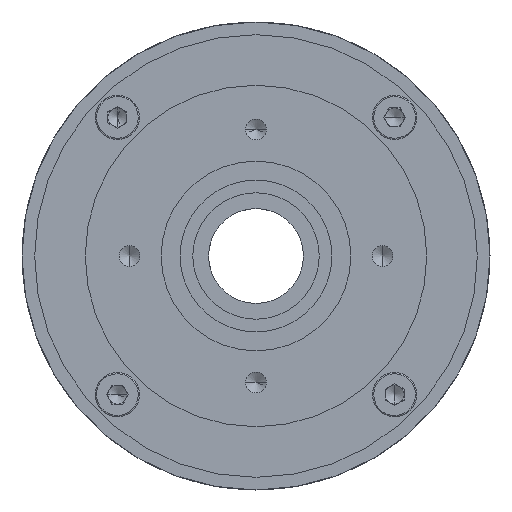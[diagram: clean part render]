
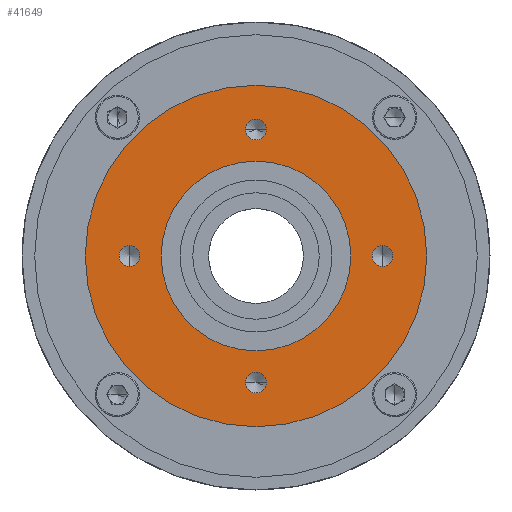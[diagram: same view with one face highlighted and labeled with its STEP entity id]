
A CAD part, left-side view. The second image highlights one B-rep face of the part: STEP entity #41649.
In plain terms, the highlighted planar face has unit normal (-1, 0, 0).
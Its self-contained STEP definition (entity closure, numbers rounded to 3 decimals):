
#957 = DIRECTION ( 'NONE',  ( -1., 0., 0. ) ) ;
#1041 = EDGE_LOOP ( 'NONE', ( #47877, #31605 ) ) ;
#1296 = AXIS2_PLACEMENT_3D ( 'NONE', #10783, #47779, #10611 ) ;
#1428 = CARTESIAN_POINT ( 'NONE',  ( 2., 0., 0. ) ) ;
#2997 = DIRECTION ( 'NONE',  ( 0., 0., 1. ) ) ;
#3758 = CIRCLE ( 'NONE', #5249, 27. ) ;
#3824 = DIRECTION ( 'NONE',  ( 0., 0., 1. ) ) ;
#3862 = CIRCLE ( 'NONE', #48891, 27. ) ;
#4387 = CIRCLE ( 'NONE', #34796, 1.65 ) ;
#5249 = AXIS2_PLACEMENT_3D ( 'NONE', #39942, #7452, #2997 ) ;
#5380 = VERTEX_POINT ( 'NONE', #27954 ) ;
#5597 = ORIENTED_EDGE ( 'NONE', *, *, #12568, .T. ) ;
#5809 = CARTESIAN_POINT ( 'NONE',  ( 2., 0., 0. ) ) ;
#6294 = ORIENTED_EDGE ( 'NONE', *, *, #14044, .T. ) ;
#7452 = DIRECTION ( 'NONE',  ( -1., 0., 0. ) ) ;
#8649 = ORIENTED_EDGE ( 'NONE', *, *, #9204, .T. ) ;
#9086 = CARTESIAN_POINT ( 'NONE',  ( 2., 0., 21.65 ) ) ;
#9115 = VERTEX_POINT ( 'NONE', #33628 ) ;
#9204 = EDGE_CURVE ( 'NONE', #33987, #37752, #3862, .T. ) ;
#9695 = DIRECTION ( 'NONE',  ( 0., 0., 1. ) ) ;
#9851 = PLANE ( 'NONE',  #24623 ) ;
#10305 = DIRECTION ( 'NONE',  ( 1., 0., 0. ) ) ;
#10376 = VERTEX_POINT ( 'NONE', #9086 ) ;
#10611 = DIRECTION ( 'NONE',  ( 0., 0., 1. ) ) ;
#10783 = CARTESIAN_POINT ( 'NONE',  ( 2., 20., 0. ) ) ;
#11078 = CIRCLE ( 'NONE', #47790, 15. ) ;
#12403 = FACE_BOUND ( 'NONE', #51219, .T. ) ;
#12568 = EDGE_CURVE ( 'NONE', #37752, #33987, #3758, .T. ) ;
#13235 = CARTESIAN_POINT ( 'NONE',  ( 2., 20., 1.65 ) ) ;
#13271 = CARTESIAN_POINT ( 'NONE',  ( 2., 0., -21.65 ) ) ;
#13480 = ORIENTED_EDGE ( 'NONE', *, *, #14678, .T. ) ;
#13653 = EDGE_CURVE ( 'NONE', #31365, #51459, #29375, .T. ) ;
#14044 = EDGE_CURVE ( 'NONE', #51459, #31365, #4387, .T. ) ;
#14495 = EDGE_CURVE ( 'NONE', #19466, #51370, #19678, .T. ) ;
#14678 = EDGE_CURVE ( 'NONE', #51370, #19466, #40942, .T. ) ;
#15034 = DIRECTION ( 'NONE',  ( 1., 0., 0. ) ) ;
#15476 = DIRECTION ( 'NONE',  ( 0., 0., 1. ) ) ;
#15478 = CIRCLE ( 'NONE', #41622, 1.65 ) ;
#15991 = CARTESIAN_POINT ( 'NONE',  ( 2., -20., -1.65 ) ) ;
#16864 = FACE_BOUND ( 'NONE', #36476, .T. ) ;
#17241 = AXIS2_PLACEMENT_3D ( 'NONE', #22512, #38514, #38695 ) ;
#17332 = DIRECTION ( 'NONE',  ( 1., 0., 0. ) ) ;
#17973 = DIRECTION ( 'NONE',  ( 0., 0., 1. ) ) ;
#19116 = ORIENTED_EDGE ( 'NONE', *, *, #14495, .T. ) ;
#19435 = FACE_BOUND ( 'NONE', #23187, .T. ) ;
#19466 = VERTEX_POINT ( 'NONE', #52980 ) ;
#19678 = CIRCLE ( 'NONE', #49979, 1.65 ) ;
#19688 = CARTESIAN_POINT ( 'NONE',  ( 2., 0., -18.35 ) ) ;
#20474 = DIRECTION ( 'NONE',  ( 1., 0., 0. ) ) ;
#21379 = FACE_BOUND ( 'NONE', #35167, .T. ) ;
#21631 = DIRECTION ( 'NONE',  ( 0., 0., 1. ) ) ;
#21758 = CARTESIAN_POINT ( 'NONE',  ( 2., 0., -27. ) ) ;
#22049 = CARTESIAN_POINT ( 'NONE',  ( 2., -20., 0. ) ) ;
#22512 = CARTESIAN_POINT ( 'NONE',  ( 2., 0., -20. ) ) ;
#23187 = EDGE_LOOP ( 'NONE', ( #52471, #41749 ) ) ;
#23274 = CIRCLE ( 'NONE', #50206, 1.65 ) ;
#23678 = CARTESIAN_POINT ( 'NONE',  ( 2., 0., 27. ) ) ;
#24623 = AXIS2_PLACEMENT_3D ( 'NONE', #1428, #46842, #42866 ) ;
#24887 = ORIENTED_EDGE ( 'NONE', *, *, #34431, .T. ) ;
#26215 = DIRECTION ( 'NONE',  ( 0., 0., 1. ) ) ;
#27150 = FACE_BOUND ( 'NONE', #1041, .T. ) ;
#27768 = FACE_OUTER_BOUND ( 'NONE', #28900, .T. ) ;
#27954 = CARTESIAN_POINT ( 'NONE',  ( 2., 0., 18.35 ) ) ;
#28727 = CARTESIAN_POINT ( 'NONE',  ( 2., 0., 20. ) ) ;
#28900 = EDGE_LOOP ( 'NONE', ( #5597, #8649 ) ) ;
#29152 = CARTESIAN_POINT ( 'NONE',  ( 2., 0., 15. ) ) ;
#29375 = CIRCLE ( 'NONE', #17241, 1.65 ) ;
#30074 = CARTESIAN_POINT ( 'NONE',  ( 2., 20., 0. ) ) ;
#30386 = ORIENTED_EDGE ( 'NONE', *, *, #52993, .T. ) ;
#30489 = DIRECTION ( 'NONE',  ( 1., 0., 0. ) ) ;
#31255 = DIRECTION ( 'NONE',  ( 0., 0., 1. ) ) ;
#31365 = VERTEX_POINT ( 'NONE', #19688 ) ;
#31605 = ORIENTED_EDGE ( 'NONE', *, *, #40907, .F. ) ;
#31974 = AXIS2_PLACEMENT_3D ( 'NONE', #28727, #20474, #3824 ) ;
#32207 = DIRECTION ( 'NONE',  ( 1., 0., 0. ) ) ;
#33628 = CARTESIAN_POINT ( 'NONE',  ( 2., 20., -1.65 ) ) ;
#33814 = DIRECTION ( 'NONE',  ( -1., 0., 0. ) ) ;
#33987 = VERTEX_POINT ( 'NONE', #21758 ) ;
#34431 = EDGE_CURVE ( 'NONE', #5380, #10376, #44690, .T. ) ;
#34796 = AXIS2_PLACEMENT_3D ( 'NONE', #44599, #32207, #15476 ) ;
#34898 = CARTESIAN_POINT ( 'NONE',  ( 2., 0., 20. ) ) ;
#35167 = EDGE_LOOP ( 'NONE', ( #30386, #24887 ) ) ;
#36476 = EDGE_LOOP ( 'NONE', ( #39179, #6294 ) ) ;
#37752 = VERTEX_POINT ( 'NONE', #23678 ) ;
#38038 = VERTEX_POINT ( 'NONE', #13235 ) ;
#38514 = DIRECTION ( 'NONE',  ( 1., 0., 0. ) ) ;
#38695 = DIRECTION ( 'NONE',  ( 0., 0., 1. ) ) ;
#38717 = AXIS2_PLACEMENT_3D ( 'NONE', #42927, #42754, #31255 ) ;
#39179 = ORIENTED_EDGE ( 'NONE', *, *, #13653, .T. ) ;
#39700 = VERTEX_POINT ( 'NONE', #42031 ) ;
#39942 = CARTESIAN_POINT ( 'NONE',  ( 2., 0., 0. ) ) ;
#40907 = EDGE_CURVE ( 'NONE', #39700, #44432, #44554, .T. ) ;
#40942 = CIRCLE ( 'NONE', #51006, 1.65 ) ;
#41622 = AXIS2_PLACEMENT_3D ( 'NONE', #34898, #10305, #50887 ) ;
#41649 = ADVANCED_FACE ( 'NONE', ( #27150, #27768, #19435, #16864, #12403, #21379 ), #9851, .T. ) ;
#41749 = ORIENTED_EDGE ( 'NONE', *, *, #44761, .T. ) ;
#42031 = CARTESIAN_POINT ( 'NONE',  ( 2., 0., -15. ) ) ;
#42754 = DIRECTION ( 'NONE',  ( -1., 0., 0. ) ) ;
#42866 = DIRECTION ( 'NONE',  ( 0., 0., 1. ) ) ;
#42927 = CARTESIAN_POINT ( 'NONE',  ( 2., 0., 0. ) ) ;
#43778 = DIRECTION ( 'NONE',  ( 0., 0., 1. ) ) ;
#44432 = VERTEX_POINT ( 'NONE', #29152 ) ;
#44554 = CIRCLE ( 'NONE', #38717, 15. ) ;
#44599 = CARTESIAN_POINT ( 'NONE',  ( 2., 0., -20. ) ) ;
#44690 = CIRCLE ( 'NONE', #31974, 1.65 ) ;
#44761 = EDGE_CURVE ( 'NONE', #9115, #38038, #47037, .T. ) ;
#46842 = DIRECTION ( 'NONE',  ( -1., 0., 0. ) ) ;
#47037 = CIRCLE ( 'NONE', #1296, 1.65 ) ;
#47779 = DIRECTION ( 'NONE',  ( 1., 0., 0. ) ) ;
#47790 = AXIS2_PLACEMENT_3D ( 'NONE', #5809, #33814, #17973 ) ;
#47877 = ORIENTED_EDGE ( 'NONE', *, *, #48538, .F. ) ;
#48538 = EDGE_CURVE ( 'NONE', #44432, #39700, #11078, .T. ) ;
#48891 = AXIS2_PLACEMENT_3D ( 'NONE', #50142, #957, #26215 ) ;
#49979 = AXIS2_PLACEMENT_3D ( 'NONE', #22049, #30489, #9695 ) ;
#50142 = CARTESIAN_POINT ( 'NONE',  ( 2., 0., 0. ) ) ;
#50206 = AXIS2_PLACEMENT_3D ( 'NONE', #30074, #17332, #21631 ) ;
#50564 = EDGE_CURVE ( 'NONE', #38038, #9115, #23274, .T. ) ;
#50887 = DIRECTION ( 'NONE',  ( 0., 0., 1. ) ) ;
#51006 = AXIS2_PLACEMENT_3D ( 'NONE', #51529, #15034, #43778 ) ;
#51219 = EDGE_LOOP ( 'NONE', ( #19116, #13480 ) ) ;
#51370 = VERTEX_POINT ( 'NONE', #15991 ) ;
#51459 = VERTEX_POINT ( 'NONE', #13271 ) ;
#51529 = CARTESIAN_POINT ( 'NONE',  ( 2., -20., 0. ) ) ;
#52471 = ORIENTED_EDGE ( 'NONE', *, *, #50564, .T. ) ;
#52980 = CARTESIAN_POINT ( 'NONE',  ( 2., -20., 1.65 ) ) ;
#52993 = EDGE_CURVE ( 'NONE', #10376, #5380, #15478, .T. ) ;
